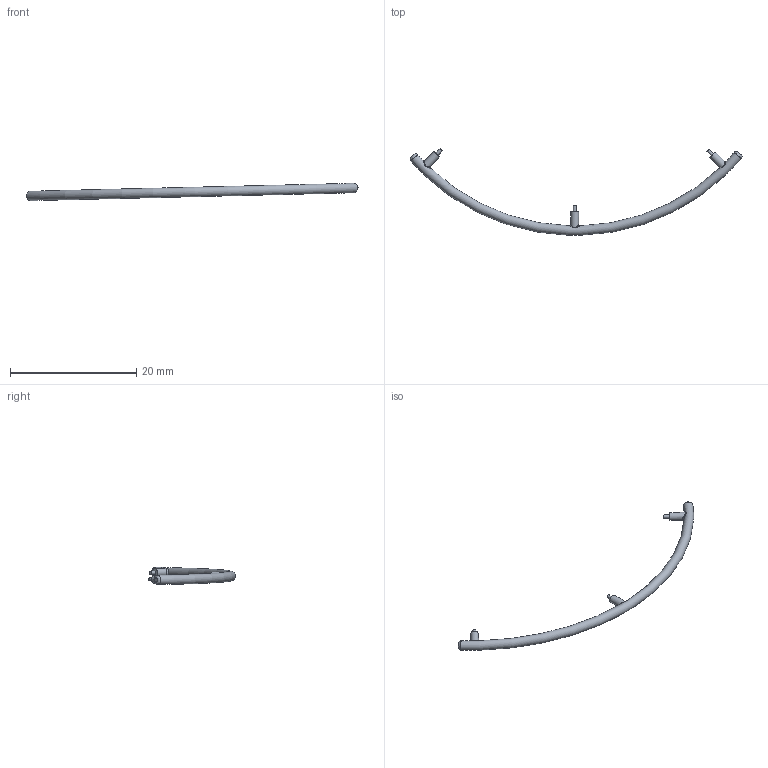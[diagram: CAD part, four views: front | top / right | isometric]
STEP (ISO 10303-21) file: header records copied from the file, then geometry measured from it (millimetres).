
FILE_DESCRIPTION(/* description */ ('','CAx-IF Rec.Pracs.---Representation and Presentation of Product Manufacturing Information (PMI)---4.0---2014-10-13'),/* implementation_level */ '2;1');
FILE_NAME(/* name */ '20elcohandrailtub.step',/* time_stamp */ '2025-03-07T12:02:12+11:00',/* author */ (''),/* organization */ (''),/* preprocessor_version */ 'ST-DEVELOPER v20',/* originating_system */ 'Autodesk Translation Framework v13.20.0.188',/* authorisation */ '');
FILE_SCHEMA (('AP242_MANAGED_MODEL_BASED_3D_ENGINEERING_MIM_LF { 1 0 10303 442 1 1 4 }'));
Length unit declared in the file: millimetre
Products named in the file (1): 40mmdepessionrail
Bounding box: 52.54 x 13.73 x 2.75 mm (x, y, z)
Volume: 112.9 mm3; surface area: 311.5 mm2
Topology: 1 solids, 1 shells, 20 faces, 45 edges, 30 vertices
Faces by surface type: plane 8, cylinder 6, bspline 5, torus 1
Full cylindrical faces by diameter (mm): 0.5 x3, 1.25 x3
Entity records: 1464 total; most frequent: CARTESIAN_POINT 1017, ORIENTED_EDGE 90, DIRECTION 74, EDGE_CURVE 45, AXIS2_PLACEMENT_3D 34, VERTEX_POINT 30, EDGE_LOOP 23, B_SPLINE_CURVE_WITH_KNOTS 21
